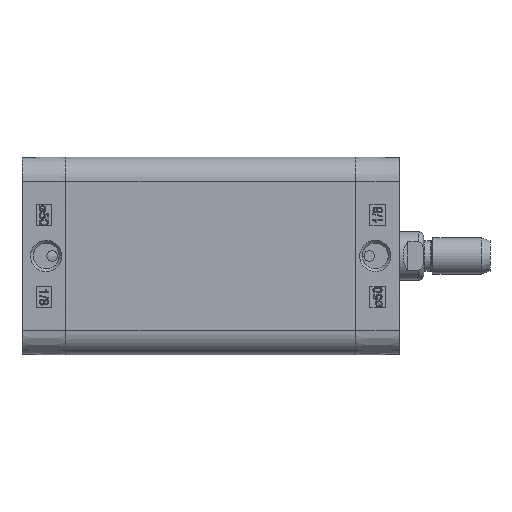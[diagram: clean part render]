
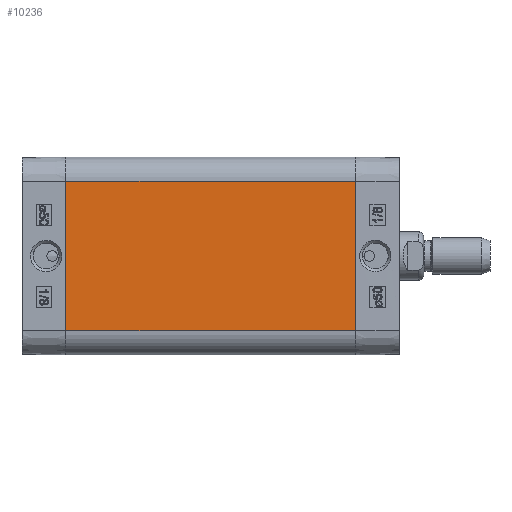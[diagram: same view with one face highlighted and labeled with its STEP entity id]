
A CAD part, left-side view. The second image highlights one B-rep face of the part: STEP entity #10236.
In plain terms, the highlighted planar face has unit normal (-1, 0, 0).
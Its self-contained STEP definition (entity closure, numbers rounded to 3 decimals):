
#5238=CARTESIAN_POINT('',(-32.75,-96.0,24.75));
#5239=VERTEX_POINT('',#5238);
#5246=CARTESIAN_POINT('',(-32.75,-96.0,-24.75));
#5247=VERTEX_POINT('',#5246);
#5248=CARTESIAN_POINT('',(-32.75,-96.0,-24.75));
#5249=DIRECTION('',(0.0,0.0,1.0));
#5250=VECTOR('',#5249,49.5);
#5251=LINE('',#5248,#5250);
#5252=EDGE_CURVE('',#5247,#5239,#5251,.T.);
#10194=CARTESIAN_POINT('',(-32.75,0.0,-24.75));
#10195=VERTEX_POINT('',#10194);
#10196=CARTESIAN_POINT('',(-32.75,0.0,-24.75));
#10197=DIRECTION('',(0.0,-1.0,0.0));
#10198=VECTOR('',#10197,96.0);
#10199=LINE('',#10196,#10198);
#10200=EDGE_CURVE('',#10195,#5247,#10199,.T.);
#10213=CARTESIAN_POINT('',(-32.75,0.0,-24.75));
#10214=DIRECTION('',(-1.0,0.0,0.0));
#10215=DIRECTION('',(0.0,0.0,1.0));
#10216=AXIS2_PLACEMENT_3D('',#10213,#10214,#10215);
#10217=PLANE('',#10216);
#10218=ORIENTED_EDGE('',*,*,#5252,.T.);
#10219=CARTESIAN_POINT('',(-32.75,0.0,24.75));
#10220=VERTEX_POINT('',#10219);
#10221=CARTESIAN_POINT('',(-32.75,0.0,24.75));
#10222=DIRECTION('',(0.0,-1.0,0.0));
#10223=VECTOR('',#10222,96.0);
#10224=LINE('',#10221,#10223);
#10225=EDGE_CURVE('',#10220,#5239,#10224,.T.);
#10226=ORIENTED_EDGE('',*,*,#10225,.F.);
#10227=CARTESIAN_POINT('',(-32.75,0.0,-24.75));
#10228=DIRECTION('',(0.0,0.0,1.0));
#10229=VECTOR('',#10228,49.5);
#10230=LINE('',#10227,#10229);
#10231=EDGE_CURVE('',#10195,#10220,#10230,.T.);
#10232=ORIENTED_EDGE('',*,*,#10231,.F.);
#10233=ORIENTED_EDGE('',*,*,#10200,.T.);
#10234=EDGE_LOOP('',(#10218,#10226,#10232,#10233));
#10235=FACE_OUTER_BOUND('',#10234,.T.);
#10236=ADVANCED_FACE('',(#10235),#10217,.T.);
